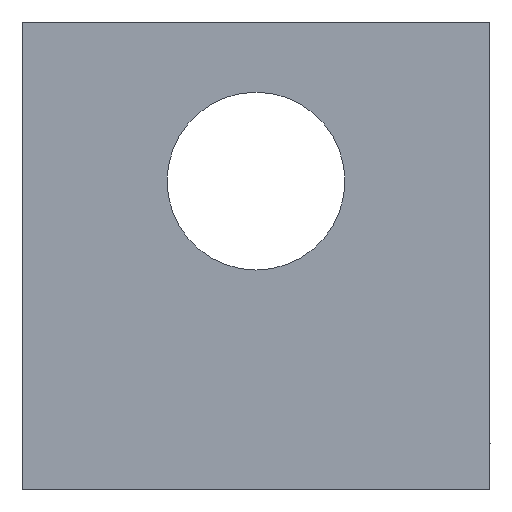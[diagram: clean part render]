
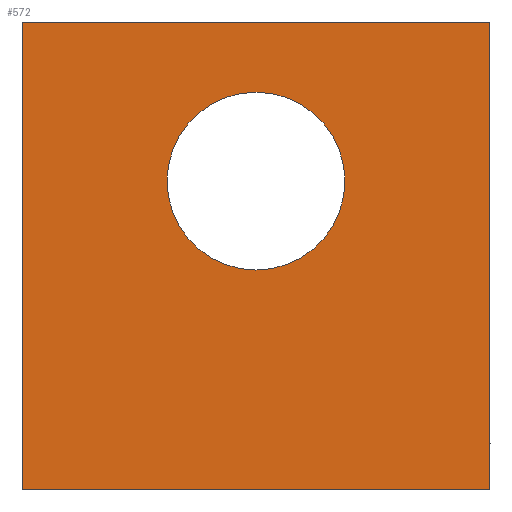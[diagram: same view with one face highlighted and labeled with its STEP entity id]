
A CAD part, front view. The second image highlights one B-rep face of the part: STEP entity #572.
In plain terms, the highlighted planar face has unit normal (0, -1, 0).
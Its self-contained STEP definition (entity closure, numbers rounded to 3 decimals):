
#270=CIRCLE('',#553,9.5);
#296=ORIENTED_EDGE('',*,*,#375,.T.);
#297=ORIENTED_EDGE('',*,*,#394,.F.);
#298=ORIENTED_EDGE('',*,*,#389,.F.);
#299=ORIENTED_EDGE('',*,*,#395,.T.);
#300=ORIENTED_EDGE('',*,*,#396,.F.);
#321=VECTOR('',#441,1.);
#332=VECTOR('',#466,1.);
#335=VECTOR('',#475,1.);
#336=VECTOR('',#476,1.);
#339=LINE('',#496,#321);
#350=LINE('',#525,#332);
#353=LINE('',#533,#335);
#354=LINE('',#534,#336);
#357=VERTEX_POINT('',#493);
#358=VERTEX_POINT('',#495);
#368=VERTEX_POINT('',#523);
#369=VERTEX_POINT('',#524);
#372=VERTEX_POINT('',#535);
#375=EDGE_CURVE('',#358,#357,#339,.T.);
#389=EDGE_CURVE('',#368,#369,#350,.T.);
#394=EDGE_CURVE('',#369,#357,#353,.T.);
#395=EDGE_CURVE('',#368,#358,#354,.T.);
#396=EDGE_CURVE('',#372,#372,#270,.T.);
#407=EDGE_LOOP('',(#296,#297,#298,#299));
#408=EDGE_LOOP('',(#300));
#427=FACE_BOUND('',#407,.T.);
#428=FACE_BOUND('',#408,.T.);
#441=DIRECTION('',(-50.,0.,0.));
#466=DIRECTION('',(-50.,0.,0.));
#473=DIRECTION('',(0.,-1.,0.));
#474=DIRECTION('',(-1.,0.,0.));
#475=DIRECTION('',(0.,0.,50.));
#476=DIRECTION('',(0.,0.,50.));
#477=DIRECTION('',(0.,-1.,0.));
#478=DIRECTION('',(0.,0.,-9.5));
#493=CARTESIAN_POINT('',(0.,-75.,50.));
#495=CARTESIAN_POINT('',(50.,-75.,50.));
#496=CARTESIAN_POINT('',(50.,-75.,50.));
#523=CARTESIAN_POINT('',(50.,-75.,0.));
#524=CARTESIAN_POINT('',(0.,-75.,0.));
#525=CARTESIAN_POINT('',(50.,-75.,0.));
#532=CARTESIAN_POINT('',(50.,-75.,50.));
#533=CARTESIAN_POINT('',(0.,-75.,0.));
#534=CARTESIAN_POINT('',(50.,-75.,0.));
#535=CARTESIAN_POINT('',(25.,-75.,23.5));
#536=CARTESIAN_POINT('',(25.,-75.,33.));
#552=AXIS2_PLACEMENT_3D('',#532,#473,#474);
#553=AXIS2_PLACEMENT_3D('',#536,#477,#478);
#564=PLANE('',#552);
#572=ADVANCED_FACE('',(#427,#428),#564,.T.);
